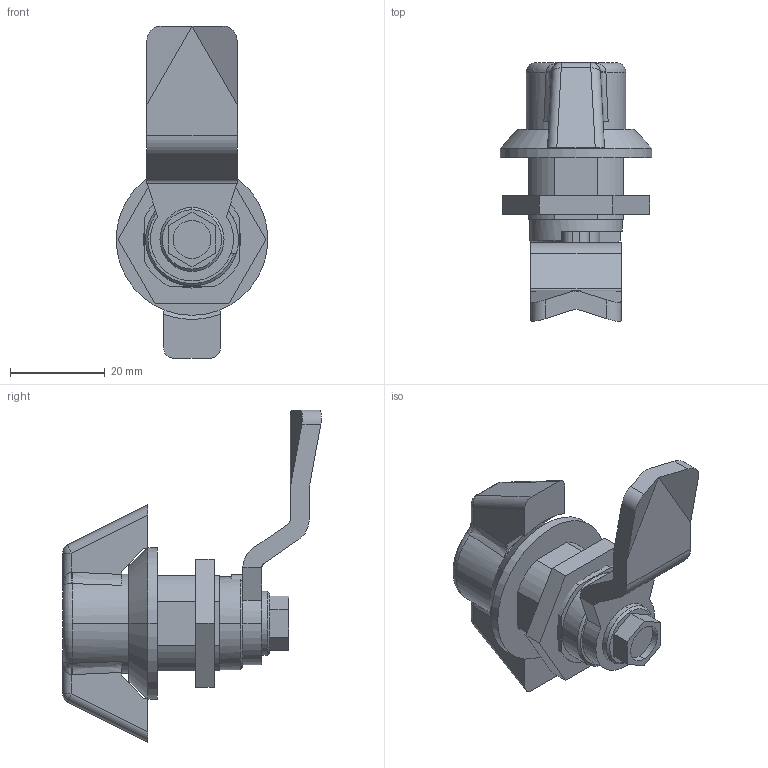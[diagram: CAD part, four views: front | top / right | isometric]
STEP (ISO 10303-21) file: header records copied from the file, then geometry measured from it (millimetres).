
FILE_DESCRIPTION (( 'STEP AP214' ), '1' );
FILE_NAME ('115-SKN-28-A4.step', '2023-07-12T12:42:17', ( '' ), ( '' ), 'SwSTEP 2.0', 'SolidWorks 2022', '' );
FILE_SCHEMA (( 'AUTOMOTIVE_DESIGN' ));
Length unit declared in the file: millimetre
Products named in the file (5): 115-SKN-28-A4; WB115_Zunge^WB115_BE_28; WB115_Gehäuse^WB115_BE_32; WB115_Betätigungswelle_Hebel^WB115_BE_SKN; WB115_Gegenmutter^WB115_BE
Assembly tree (4 placements, depth 2):
  115-SKN-28-A4
    WB115_Gehäuse^WB115_BE_32
    WB115_Betätigungswelle_Hebel^WB115_BE_SKN
    WB115_Zunge^WB115_BE_28
    WB115_Gegenmutter^WB115_BE
Bounding box: 32 x 54.59 x 70 mm (x, y, z)
Volume: 23886 mm3; surface area: 12620.2 mm2
Topology: 4 solids, 4 shells, 159 faces, 393 edges, 248 vertices
Faces by surface type: plane 76, cylinder 57, bspline 12, cone 7, sphere 5, torus 2
Entity records: 5778 total; most frequent: CARTESIAN_POINT 1365, ORIENTED_EDGE 776, DIRECTION 775, EDGE_CURVE 388, AXIS2_PLACEMENT_3D 286, VERTEX_POINT 248, LINE 203, VECTOR 203
